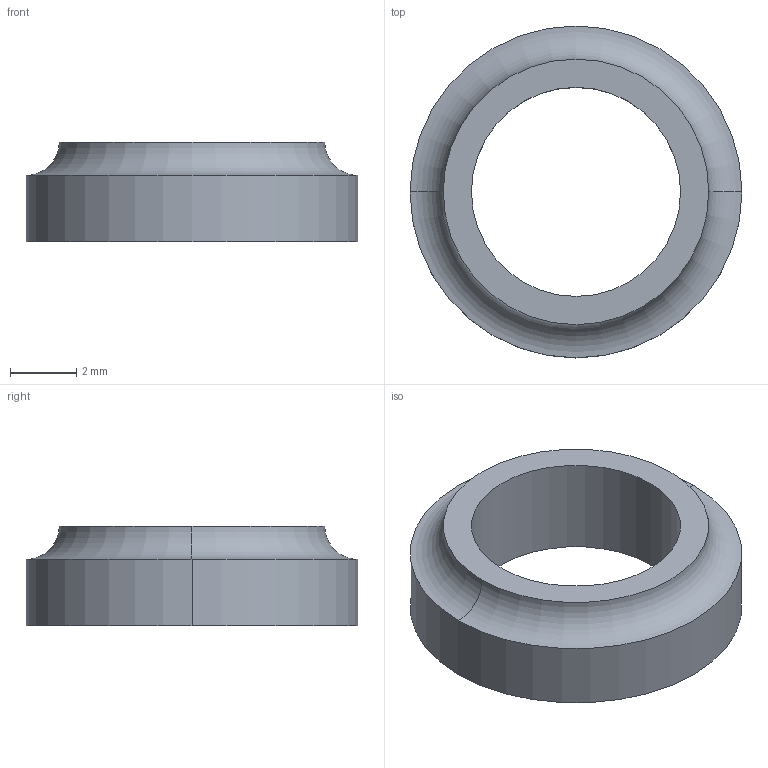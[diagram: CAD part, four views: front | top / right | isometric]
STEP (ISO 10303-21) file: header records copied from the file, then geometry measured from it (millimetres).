
FILE_DESCRIPTION (( 'STEP AP214' ), '1' );
FILE_NAME ('2024-35 - CAGE ALIGNER SPACER.STEP', '2024-09-06T09:38:27', ( '' ), ( '' ), 'SwSTEP 2.0', 'SolidWorks 2024', '' );
FILE_SCHEMA (( 'AUTOMOTIVE_DESIGN' ));
Length unit declared in the file: millimetre
Products named in the file (1): 2024-35 - CAGE ALIGNER SPACER
Bounding box: 10 x 10 x 3 mm (x, y, z)
Volume: 119.5 mm3; surface area: 231.7 mm2
Topology: 1 solids, 1 shells, 8 faces, 16 edges, 10 vertices
Faces by surface type: cylinder 4, torus 2, plane 2
Entity records: 243 total; most frequent: DIRECTION 46, CARTESIAN_POINT 35, ORIENTED_EDGE 32, AXIS2_PLACEMENT_3D 21, EDGE_CURVE 16, CIRCLE 12, EDGE_LOOP 10, VERTEX_POINT 10
